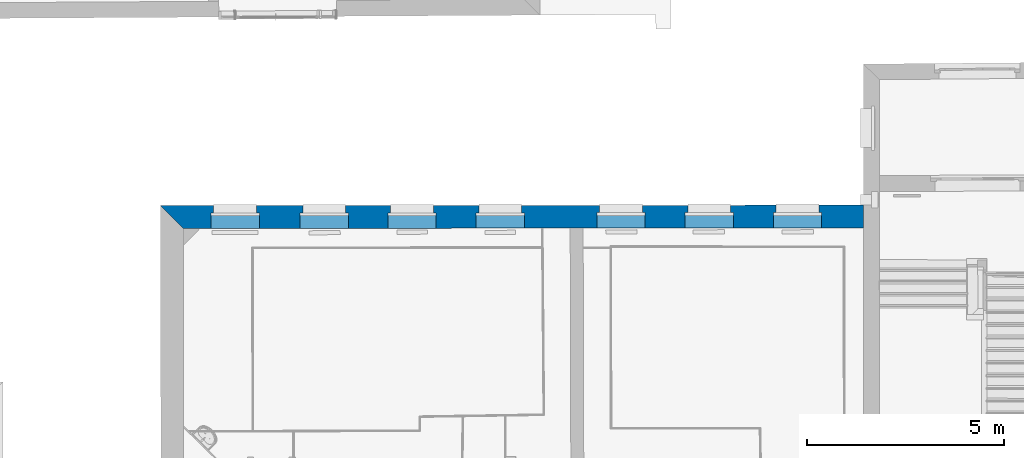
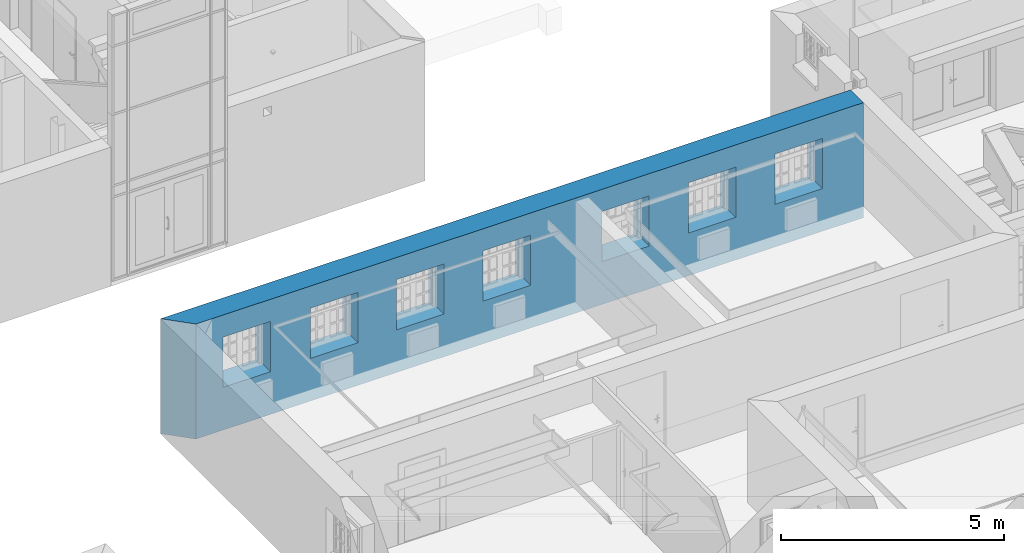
# One storey, part 26 of 196: 1 wall, 7 openings.
"""IFC2X3 building model written with IfcOpenShell, lengths in metres."""

from ifc_helpers import new_model, entity, si_unit, converted_unit, derived_unit, money_unit, direction, frame, origin_with_axes, origin_2d_with_axis, place, context, subcontext, project, spatial, polyline, rectangle, outline, extrude, material, layer, layer_set, layer_usage, type_object, element, save


model = new_model("IFC2X3")

# Units and contexts
model_context = context("Model", 3, precision=1e-05, world=origin_with_axes(), true_north=direction((0.0, 1.0)))
body_context = subcontext(model_context, "Body", "Model", "MODEL_VIEW")
ifc_project = project(units=[si_unit("LENGTHUNIT", "METRE"), si_unit("AREAUNIT", "SQUARE_METRE"), si_unit("VOLUMEUNIT", "CUBIC_METRE"), converted_unit("PLANEANGLEUNIT", "DEGREE", entity("IfcPlaneAngleMeasure", 0.0174532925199), si_unit("PLANEANGLEUNIT", "RADIAN"), dimensions=[0, 0, 0, 0, 0, 0, 0]), money_unit("EUR"), converted_unit("TIMEUNIT", "Year", entity("IfcTimeMeasure", 31556926.0), si_unit("TIMEUNIT", "SECOND"), dimensions=[0, 0, 1, 0, 0, 0, 0]), si_unit("MASSUNIT", "GRAM", prefix="KILO"), si_unit("THERMODYNAMICTEMPERATUREUNIT", "DEGREE_CELSIUS"), si_unit("LUMINOUSINTENSITYUNIT", "LUMEN"), si_unit("ENERGYUNIT", "JOULE", prefix="MEGA"), derived_unit("THERMALCONDUCTANCEUNIT", [(si_unit("POWERUNIT", "WATT"), 1), (si_unit("LENGTHUNIT", "METRE"), -1), (si_unit("THERMODYNAMICTEMPERATUREUNIT", "KELVIN"), -1)]), derived_unit("SPECIFICHEATCAPACITYUNIT", [(si_unit("ENERGYUNIT", "JOULE"), 1), (si_unit("MASSUNIT", "GRAM", prefix="KILO"), -1), (si_unit("THERMODYNAMICTEMPERATUREUNIT", "KELVIN"), -1)]), derived_unit("MASSDENSITYUNIT", [(si_unit("MASSUNIT", "GRAM", prefix="KILO"), 1), (si_unit("VOLUMEUNIT", "CUBIC_METRE"), -1)])], contexts=[model_context])

# Site, building, storey
site_placement = place(None, origin_with_axes())
site = spatial("IfcSite", under=ifc_project, at=site_placement, Name="Gelände", CompositionType="ELEMENT")
building_placement = place(site_placement, origin_with_axes())
building = spatial("IfcBuilding", under=site, at=building_placement, Name="Gebäude", CompositionType="ELEMENT")
storey_placement = place(building_placement, frame((0.0, 0.0, -3.0), z_axis=(0.0, 0.0, 1.0), x_axis=(1.0, 0.0, 0.0)))
storey = spatial("IfcBuildingStorey", under=building, at=storey_placement, Name="KELLERGESCHOSS", CompositionType="ELEMENT", Elevation=-3.0)

# Wall, openings
ifc_material = material(Name="05_ALLGEMEIN - TRAGENDE BAUTEILE")
ifc_layer = layer(ifc_material, 0.58, ventilated="UNKNOWN")
ifc_layer_set = layer_set([ifc_layer], Name="05_ALLGEMEIN - TRAGENDE BAUTEILE 0.58")
ifc_layer_usage = layer_usage(ifc_layer_set, "AXIS2", "NEGATIVE", 0.58)
wall_type = type_object("IfcWallType", Name="05_ALLGEMEIN - TRAGENDE BAUTEILE 580", PredefinedType="ELEMENTEDWALL")
wall_placement = place(storey_placement, frame((-9.84212477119, 26.1045391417, -0.36), z_axis=(0.0, 0.0, 1.0), x_axis=(-0.99999977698, -0.000667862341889, 0.0)))
wall = element("IfcWallStandardCase", 1, at=wall_placement, inside=storey, type_object=wall_type, material=ifc_layer_usage, Name="Wand-030", ObjectType="ELEMENTEDWALL", context=body_context, shape_type="SweptSolid", body=[
    extrude(outline(polyline([(0.410000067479, 0.0), (18.2863083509, 0.0), (17.7061538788, 0.58), (0.410332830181, 0.58), (0.410000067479, 0.0)])), origin_with_axes(), (0.0, 0.0, 1.0), 3.15),
])
opening_1_placement = place(wall_placement, frame((16.3897102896, 0.0, 1.16872266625), z_axis=(0.0, 0.0, 1.0), x_axis=(1.0, 0.0, 0.0)))
element("IfcOpeningElement", 2, at=opening_1_placement, cuts=wall, Name="Fenster-015", context=body_context, shape_type="SweptSolid", body=[
    extrude(rectangle(XDim=1.23, YDim=1.37626033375, at=origin_2d_with_axis()), frame((0.0, 0.187384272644, 0.688130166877), z_axis=(0.0, -1.0, 0.0), x_axis=(1.0, 0.0, 0.0)), (0.0, 0.0, -1.0), 0.972615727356),
    extrude(rectangle(XDim=1.09, YDim=1.30626033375, at=origin_2d_with_axis()), frame((0.0, 0.187384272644, 0.653130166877), z_axis=(0.0, 1.0, 0.0), x_axis=(1.0, 0.0, 0.0)), (0.0, 0.0, -1.0), 0.767384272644),
])
opening_2_placement = place(wall_placement, frame((14.1217848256, 0.0, 1.16872266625), z_axis=(0.0, 0.0, 1.0), x_axis=(1.0, 0.0, 0.0)))
element("IfcOpeningElement", 3, at=opening_2_placement, cuts=wall, Name="Fenster-015", context=body_context, shape_type="SweptSolid", body=[
    extrude(rectangle(XDim=1.23, YDim=1.37626033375, at=origin_2d_with_axis()), frame((0.0, 0.187384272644, 0.688130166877), z_axis=(0.0, -1.0, 0.0), x_axis=(1.0, 0.0, 0.0)), (0.0, 0.0, -1.0), 0.972615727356),
    extrude(rectangle(XDim=1.09, YDim=1.30626033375, at=origin_2d_with_axis()), frame((0.0, 0.187384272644, 0.653130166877), z_axis=(0.0, 1.0, 0.0), x_axis=(1.0, 0.0, 0.0)), (0.0, 0.0, -1.0), 0.767384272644),
])
opening_3_placement = place(wall_placement, frame((11.8909592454, 0.0, 1.16872266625), z_axis=(0.0, 0.0, 1.0), x_axis=(1.0, 0.0, 0.0)))
element("IfcOpeningElement", 4, at=opening_3_placement, cuts=wall, Name="Fenster-015", context=body_context, shape_type="SweptSolid", body=[
    extrude(rectangle(XDim=1.23, YDim=1.37626033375, at=origin_2d_with_axis()), frame((0.0, 0.187384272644, 0.688130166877), z_axis=(0.0, -1.0, 0.0), x_axis=(1.0, 0.0, 0.0)), (0.0, 0.0, -1.0), 0.972615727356),
    extrude(rectangle(XDim=1.09, YDim=1.30626033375, at=origin_2d_with_axis()), frame((0.0, 0.187384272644, 0.653130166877), z_axis=(0.0, 1.0, 0.0), x_axis=(1.0, 0.0, 0.0)), (0.0, 0.0, -1.0), 0.767384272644),
])
opening_4_placement = place(wall_placement, frame((9.64817939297, 0.0, 1.16872266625), z_axis=(0.0, 0.0, 1.0), x_axis=(1.0, 0.0, 0.0)))
element("IfcOpeningElement", 5, at=opening_4_placement, cuts=wall, Name="Fenster-015", context=body_context, shape_type="SweptSolid", body=[
    extrude(rectangle(XDim=1.23, YDim=1.37626033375, at=origin_2d_with_axis()), frame((0.0, 0.187384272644, 0.688130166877), z_axis=(0.0, -1.0, 0.0), x_axis=(1.0, 0.0, 0.0)), (0.0, 0.0, -1.0), 0.972615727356),
    extrude(rectangle(XDim=1.09, YDim=1.30626033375, at=origin_2d_with_axis()), frame((0.0, 0.187384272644, 0.653130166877), z_axis=(0.0, 1.0, 0.0), x_axis=(1.0, 0.0, 0.0)), (0.0, 0.0, -1.0), 0.767384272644),
])
opening_5_placement = place(wall_placement, frame((6.57501877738, 0.0, 1.16872266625), z_axis=(0.0, 0.0, 1.0), x_axis=(1.0, 0.0, 0.0)))
element("IfcOpeningElement", 6, at=opening_5_placement, cuts=wall, Name="Fenster-015", context=body_context, shape_type="SweptSolid", body=[
    extrude(rectangle(XDim=1.23, YDim=1.37626033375, at=origin_2d_with_axis()), frame((0.0, 0.187384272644, 0.688130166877), z_axis=(0.0, -1.0, 0.0), x_axis=(1.0, 0.0, 0.0)), (0.0, 0.0, -1.0), 0.972615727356),
    extrude(rectangle(XDim=1.09, YDim=1.30626033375, at=origin_2d_with_axis()), frame((0.0, 0.187384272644, 0.653130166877), z_axis=(0.0, 1.0, 0.0), x_axis=(1.0, 0.0, 0.0)), (0.0, 0.0, -1.0), 0.767384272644),
])
opening_6_placement = place(wall_placement, frame((4.33090138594, 0.0, 1.16872266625), z_axis=(0.0, 0.0, 1.0), x_axis=(1.0, 0.0, 0.0)))
element("IfcOpeningElement", 7, at=opening_6_placement, cuts=wall, Name="Fenster-015", context=body_context, shape_type="SweptSolid", body=[
    extrude(rectangle(XDim=1.23, YDim=1.37626033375, at=origin_2d_with_axis()), frame((0.0, 0.187384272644, 0.688130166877), z_axis=(0.0, -1.0, 0.0), x_axis=(1.0, 0.0, 0.0)), (0.0, 0.0, -1.0), 0.972615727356),
    extrude(rectangle(XDim=1.09, YDim=1.30626033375, at=origin_2d_with_axis()), frame((0.0, 0.187384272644, 0.653130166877), z_axis=(0.0, 1.0, 0.0), x_axis=(1.0, 0.0, 0.0)), (0.0, 0.0, -1.0), 0.767384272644),
])
opening_7_placement = place(wall_placement, frame((2.0880144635, 0.0, 1.16872266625), z_axis=(0.0, 0.0, 1.0), x_axis=(1.0, 0.0, 0.0)))
element("IfcOpeningElement", 8, at=opening_7_placement, cuts=wall, Name="Fenster-015", context=body_context, shape_type="SweptSolid", body=[
    extrude(rectangle(XDim=1.23, YDim=1.37626033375, at=origin_2d_with_axis()), frame((0.0, 0.187384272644, 0.688130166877), z_axis=(0.0, -1.0, 0.0), x_axis=(1.0, 0.0, 0.0)), (0.0, 0.0, -1.0), 0.972615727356),
    extrude(rectangle(XDim=1.09, YDim=1.30626033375, at=origin_2d_with_axis()), frame((0.0, 0.187384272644, 0.653130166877), z_axis=(0.0, 1.0, 0.0), x_axis=(1.0, 0.0, 0.0)), (0.0, 0.0, -1.0), 0.767384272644),
])

save(model, "model.ifc")
